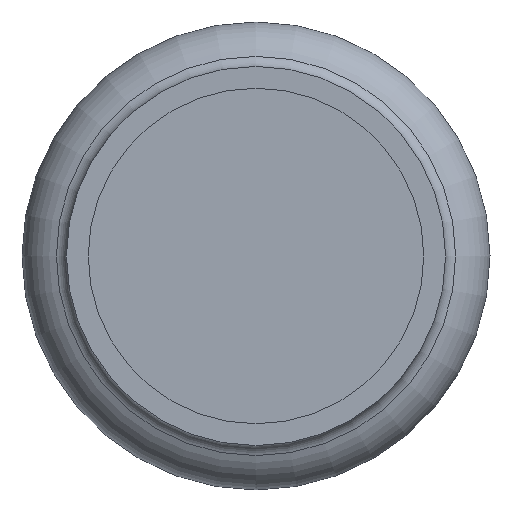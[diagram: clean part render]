
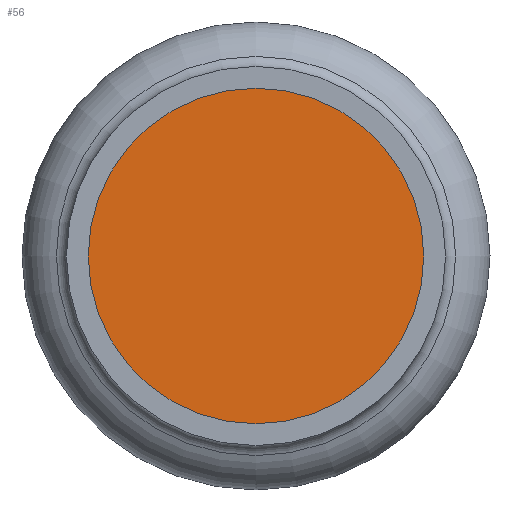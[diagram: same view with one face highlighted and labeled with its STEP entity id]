
A CAD part, front view. The second image highlights one B-rep face of the part: STEP entity #56.
In plain terms, the highlighted planar face has unit normal (0, -1, 0).
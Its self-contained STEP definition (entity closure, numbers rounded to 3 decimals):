
#56=ADVANCED_FACE('',(#99),#101,.T.);
#99=FACE_BOUND('',#100,.T.);
#100=EDGE_LOOP('',(#264));
#101=PLANE('',#102);
#102=AXIS2_PLACEMENT_3D('',#103,#104,#105);
#103=CARTESIAN_POINT('',(0.,7.221,0.));
#104=DIRECTION('',(0.,-1.,0.));
#105=DIRECTION('',(0.,0.,-1.));
#264=ORIENTED_EDGE('',*,*,#301,.T.);
#301=EDGE_CURVE('',#323,#323,#324,.F.);
#323=VERTEX_POINT('',#369);
#324=CIRCLE('',#370,11.15);
#369=CARTESIAN_POINT('',(0.,7.221,11.15));
#370=AXIS2_PLACEMENT_3D('',#371,#372,#373);
#371=CARTESIAN_POINT('',(0.,7.221,0.));
#372=DIRECTION('',(0.,1.,0.));
#373=DIRECTION('',(0.,0.,1.));
